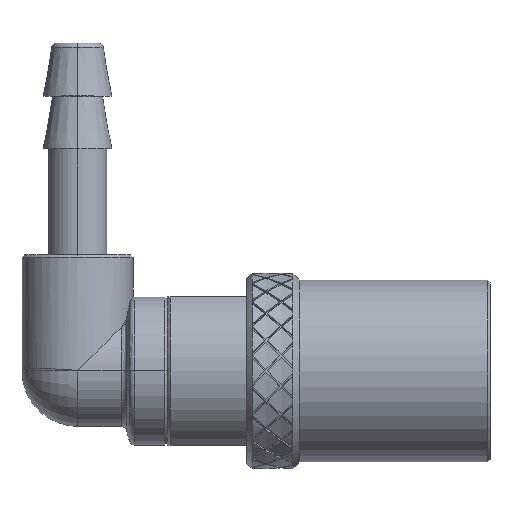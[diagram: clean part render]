
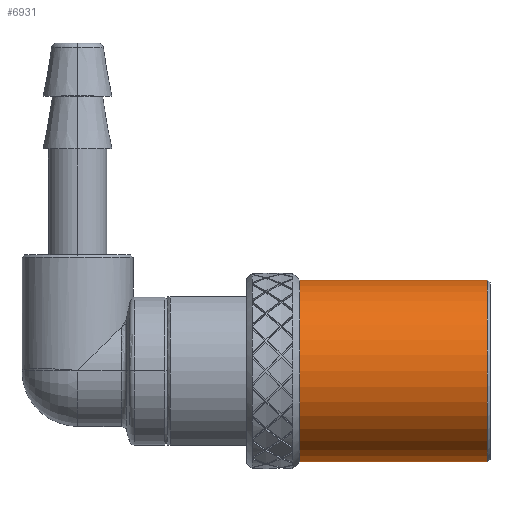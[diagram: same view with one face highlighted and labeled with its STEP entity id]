
A CAD part, top view. The second image highlights one B-rep face of the part: STEP entity #6931.
In plain terms, the highlighted cylindrical face has radius 8.6 mm (diameter 17.2 mm), a partial arc.
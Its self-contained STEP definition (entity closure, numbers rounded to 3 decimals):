
#31 = ORIENTED_EDGE ( 'NONE', *, *, #4331, .F. ) ;
#32 = ORIENTED_EDGE ( 'NONE', *, *, #2752, .T. ) ;
#33 = ORIENTED_EDGE ( 'NONE', *, *, #4332, .T. ) ;
#34 = ORIENTED_EDGE ( 'NONE', *, *, #2753, .F. ) ;
#1346 = CIRCLE ( 'NONE', #6644, 8.6 ) ;
#1347 = CIRCLE ( 'NONE', #6645, 8.6 ) ;
#1433 = LINE ( 'NONE', #10063, #1436 ) ;
#1435 = LINE ( 'NONE', #10065, #1438 ) ;
#1436 = VECTOR ( 'NONE', #10064, 1000. ) ;
#1438 = VECTOR ( 'NONE', #10066, 1000. ) ;
#2752 = EDGE_CURVE ( 'NONE', #5980, #5979, #1346, .T. ) ;
#2753 = EDGE_CURVE ( 'NONE', #6025, #6023, #1347, .T. ) ;
#4331 = EDGE_CURVE ( 'NONE', #5980, #6025, #1433, .T. ) ;
#4332 = EDGE_CURVE ( 'NONE', #5979, #6023, #1435, .T. ) ;
#4967 = EDGE_LOOP ( 'NONE', ( #31, #32, #33, #34 ) ) ;
#5979 = VERTEX_POINT ( 'NONE', #11908 ) ;
#5980 = VERTEX_POINT ( 'NONE', #11909 ) ;
#6023 = VERTEX_POINT ( 'NONE', #11952 ) ;
#6025 = VERTEX_POINT ( 'NONE', #11954 ) ;
#6644 = AXIS2_PLACEMENT_3D ( 'NONE', #8579, #8580, #8581 ) ;
#6645 = AXIS2_PLACEMENT_3D ( 'NONE', #8582, #8583, #8584 ) ;
#6931 = ADVANCED_FACE ( 'NONE', ( #13636 ), #13641, .T. ) ;
#8579 = CARTESIAN_POINT ( 'NONE',  ( -0.25, 0., 0. ) ) ;
#8580 = DIRECTION ( 'NONE',  ( -1., 0., 0. ) ) ;
#8581 = DIRECTION ( 'NONE',  ( 0., -1., 0. ) ) ;
#8582 = CARTESIAN_POINT ( 'NONE',  ( -18., 0., 0. ) ) ;
#8583 = DIRECTION ( 'NONE',  ( -1., 0., 0. ) ) ;
#8584 = DIRECTION ( 'NONE',  ( 0., 1., 0. ) ) ;
#10063 = CARTESIAN_POINT ( 'NONE',  ( -23., -8.6, 0. ) ) ;
#10064 = DIRECTION ( 'NONE',  ( -1., 0., 0. ) ) ;
#10065 = CARTESIAN_POINT ( 'NONE',  ( -23., 8.6, 0. ) ) ;
#10066 = DIRECTION ( 'NONE',  ( -1., 0., 0. ) ) ;
#11908 = CARTESIAN_POINT ( 'NONE',  ( -0.25, 8.6, 0. ) ) ;
#11909 = CARTESIAN_POINT ( 'NONE',  ( -0.25, -8.6, 0. ) ) ;
#11952 = CARTESIAN_POINT ( 'NONE',  ( -18., 8.6, 0. ) ) ;
#11954 = CARTESIAN_POINT ( 'NONE',  ( -18., -8.6, 0. ) ) ;
#13636 = FACE_OUTER_BOUND ( 'NONE', #4967, .T. ) ;
#13641 = CYLINDRICAL_SURFACE ( 'NONE', #13973, 8.6 ) ;
#13973 = AXIS2_PLACEMENT_3D ( 'NONE', #15042, #15043, #15041 ) ;
#15041 = DIRECTION ( 'NONE',  ( 0., 1., 0. ) ) ;
#15042 = CARTESIAN_POINT ( 'NONE',  ( -23., 0., 0. ) ) ;
#15043 = DIRECTION ( 'NONE',  ( -1., 0., 0. ) ) ;
